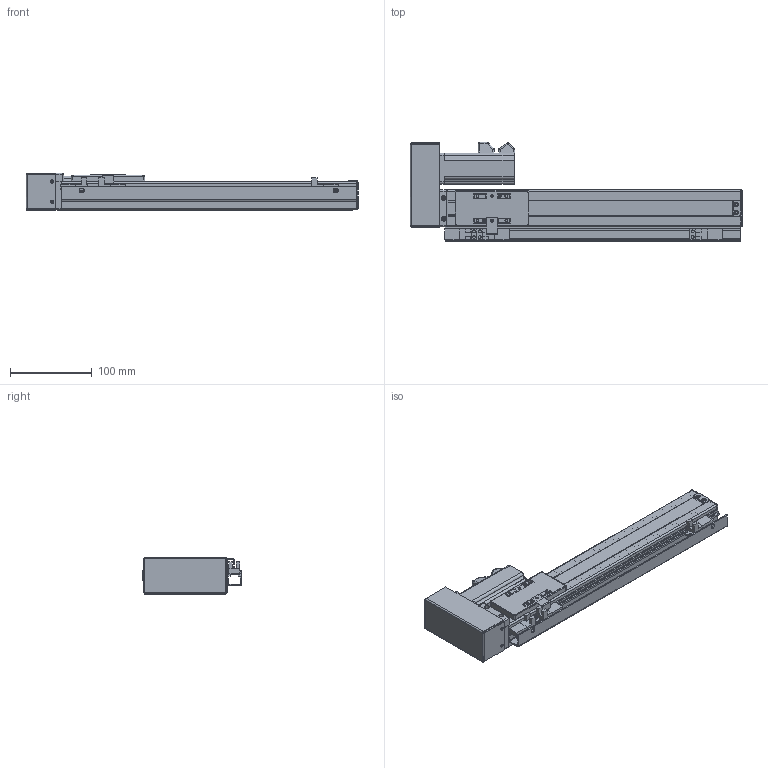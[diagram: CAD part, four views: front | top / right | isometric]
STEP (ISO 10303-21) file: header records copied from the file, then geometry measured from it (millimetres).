
FILE_DESCRIPTION (( 'STEP AP203' ), '1' );
FILE_NAME ('VT4-L12-C-S240-BR-P10-D4.STEP', '2015-10-26T03:43:18', ( '' ), ( '' ), 'SwSTEP 2.0', 'SolidWorks 2013', '' );
FILE_SCHEMA (( 'CONFIG_CONTROL_DESIGN' ));
Length unit declared in the file: millimetre
Products named in the file (17): T4-覜茼え; 詩湍; MGW12C-絳寢_俴最240; 侂狟100W MSMD012G1U; T4-BLR 萇儂欶; T4-綴傷裔; VT4-L12-C-S240-BR-P10-D4; EE-SX674-WR; T4-耜啣羲耀芞2_俴最240; T4-賑雄殤; T4-裔啣; T4-揤輸; SFKR0802佪裝TBI_俴最240; T6-癹弇羲壽羞_俴最240; T4-BLRM ヶ傷揤輸_A6061; T4-BLRM 粣創釱; T4-BLR 100w萇儂假蚾啣_A6061
Assembly tree (19 placements, depth 2):
  VT4-L12-C-S240-BR-P10-D4
    T4-綴傷裔
    T4-耜啣羲耀芞2_俴最240  x2
    T4-賑雄殤
    T4-裔啣
    T4-揤輸
    T4-覜茼え
    T6-癹弇羲壽羞_俴最240
    EE-SX674-WR  x3
    SFKR0802佪裝TBI_俴最240
    MGW12C-絳寢_俴最240
    侂狟100W MSMD012G1U
    T4-BLR 100w萇儂假蚾啣_A6061
    T4-BLRM 粣創釱
    T4-BLRM ヶ傷揤輸_A6061
    詩湍
    T4-BLR 萇儂欶
Bounding box: 405 x 121 x 46.25 mm (x, y, z)
Volume: 423157 mm3; surface area: 302614.3 mm2
Topology: 22 solids, 22 shells, 1227 faces, 3278 edges, 2073 vertices
Faces by surface type: plane 564, cylinder 548, cone 57, torus 30, sphere 20, bspline 8
Entity records: 34587 total; most frequent: CARTESIAN_POINT 6586, DIRECTION 5612, ORIENTED_EDGE 5332, EDGE_CURVE 2666, AXIS2_PLACEMENT_3D 2011, VERTEX_POINT 1707, LINE 1590, VECTOR 1590
